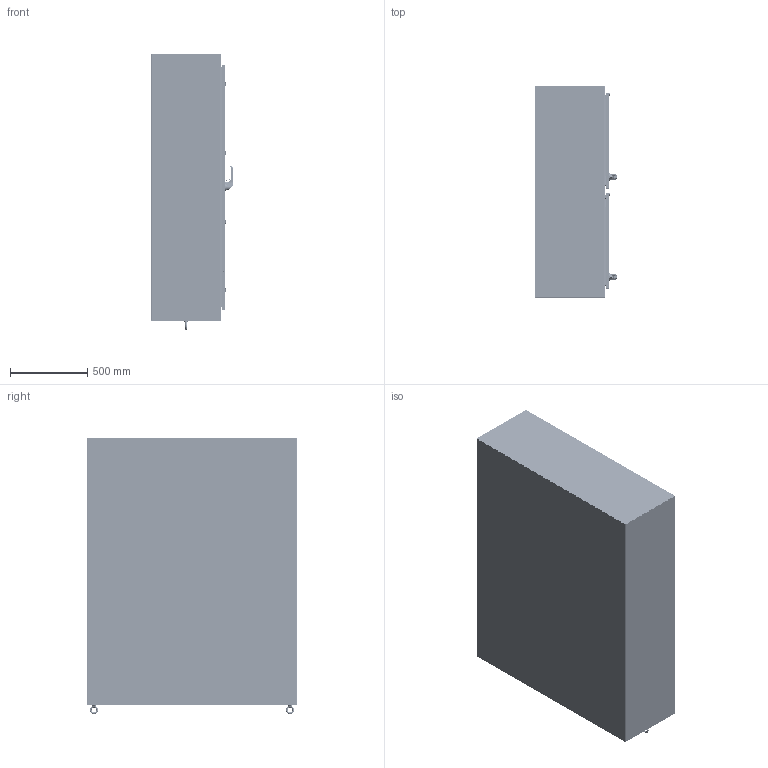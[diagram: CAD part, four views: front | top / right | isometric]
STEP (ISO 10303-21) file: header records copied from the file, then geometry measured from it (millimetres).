
FILE_DESCRIPTION((''),'2;1');
FILE_NAME('MODEL-462_ASM','2023-09-18T14:51:10',('mikek'),('SAGINAW CONTROL & ENGINEERING'),'CREO PARAMETRIC BY PTC INC, 2021284','CREO PARAMETRIC BY PTC INC, 2021284','');
FILE_SCHEMA(('AUTOMOTIVE_DESIGN { 1 0 10303 214 1 1 1 1 }'));
Length unit declared in the file: inch
Products named in the file (112): MODEL-462-L-SD; MODEL-462-TP; MODEL-462-R-SD; MODEL-462-BTM; MODEL-462-RH-DR; 100837; 111267; 100882; 100953_HANDLE; 100953_HANDLE_INSERT; 100953_SHAFT_CAM; 100953_ADAPTER_CAM; 100953_NUT_CAM; 100953_BASE; 100953_O-RING; 100953_WASHER_SEALING; 100953_NUT_MOUNTING_LARGE; 100953_NUT_MOUNTING_SMALL; 100953_SCREW_SMALL; 100953_INSERT; 100953_PADLOCK_CATCH; 100953_ASM; 102237; 100030; 102237_ASM; MODEL-462-ROD-RH-UPR; 128146; 128145; 128144; 102482; MODEL-462-ROD-RH-UPR_ASM; 128143; 112504; MODEL-462-ROD-RH-LWR; MODEL-462-ROD-RH-LWR_ASM; MODEL-462-PR-GSKT-RH; 128258; 128258_ASM; 126395; 102483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
Assembly tree (241 placements, depth 4):
  MODEL-462_ASM
    MODEL-462-L-SD
    MODEL-462-TP
    MODEL-462-R-SD
    MODEL-462-BTM
    MODEL-462-RH-DOOR-ASSY_ASM
      MODEL-462-RH-DR
      100837  x7
      111267
      100882  x12
      100953_ASM
        100953_HANDLE
        100953_HANDLE_INSERT
        100953_SHAFT_CAM
        100953_ADAPTER_CAM
        100953_NUT_CAM
        100953_BASE
        100953_O-RING
        100953_WASHER_SEALING
        100953_NUT_MOUNTING_LARGE
        100953_NUT_MOUNTING_SMALL
        100953_SCREW_SMALL
        100953_INSERT
        100953_PADLOCK_CATCH
      102237_ASM
        102237
        100030  x2
      MODEL-462-ROD-RH-UPR_ASM
        MODEL-462-ROD-RH-UPR
        128146
        128145
        128144
        102482  x2
      128143  x2
      112504  x2
      MODEL-462-ROD-RH-LWR_ASM
        MODEL-462-ROD-RH-LWR
        128146
        128145
        128144
        102482  x2
      MODEL-462-PR-GSKT-RH
      128258_ASM  x4
        128258
      126395  x4
      102483  x4
      101383_ASM  x4
        101383
        101383-STUD
      101221  x4
    MODEL-462-LH-DOOR-ASSY_ASM
      MODEL-462-LH-DR
      100837  x3
      100957_ASM
        100957_HANDLE
        100957_HANDLE_INSERT
        100957_SHAFT_CAM
        100957_ADAPTER_CAM
        100957_NUT_CAM
        100957_BASE
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Bounding box: 534.57 x 1365.25 x 1788.36 mm (x, y, z)
Volume: 31319165 mm3; surface area: 22532892.5 mm2
Topology: 269 solids, 269 shells, 22898 faces, 58682 edges, 36376 vertices
Faces by surface type: plane 7945, cylinder 6170, bspline 4851, torus 1639, cone 1280, sphere 692, extrusion 321
Entity records: 588959 total; most frequent: CARTESIAN_POINT 244042, ORIENTED_EDGE 51936, DIRECTION 48981, PRESENTATION_STYLE_ASSIGNMENT 26993, STYLED_ITEM 26706, CURVE_STYLE 25968, EDGE_CURVE 25968, AXIS2_PLACEMENT_3D 18292
